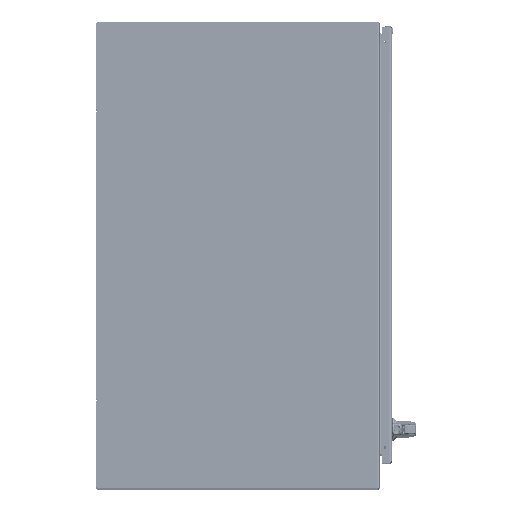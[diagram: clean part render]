
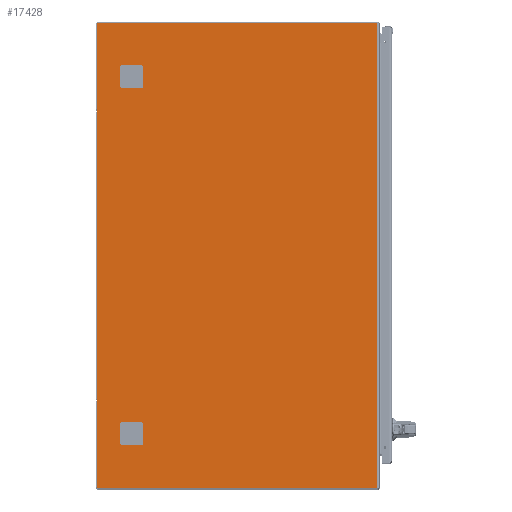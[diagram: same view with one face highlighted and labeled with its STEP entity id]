
A CAD part, top view. The second image highlights one B-rep face of the part: STEP entity #17428.
In plain terms, the highlighted planar face has unit normal (0, 0, 1) as drawn and (0, 1, 0) by its records, which use the part's own axes.
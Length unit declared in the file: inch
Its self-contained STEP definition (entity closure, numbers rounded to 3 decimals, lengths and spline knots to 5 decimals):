
#16191=CARTESIAN_POINT('',(-23.888,0.,-19.638));
#16192=DIRECTION('',(0.,1.,0.));
#16193=DIRECTION('',(0.,0.,-1.));
#16194=AXIS2_PLACEMENT_3D('',#16191,#16192,#16193);
#16199=CARTESIAN_POINT('',(-23.888,0.,19.638));
#16200=DIRECTION('',(0.,1.,0.));
#16201=DIRECTION('',(-1.,0.,0.));
#16202=AXIS2_PLACEMENT_3D('',#16199,#16200,#16201);
#16207=DIRECTION('',(0.,0.,1.));
#16208=VECTOR('',#16207,1.5);
#16209=CARTESIAN_POINT('',(-20.,0.,-15.875));
#16210=LINE('',#16209,#16208);
#16214=CARTESIAN_POINT('',(-20.25,0.,-15.875));
#16215=DIRECTION('',(0.,1.,0.));
#16216=DIRECTION('',(1.,0.,0.));
#16217=AXIS2_PLACEMENT_3D('',#16214,#16215,#16216);
#16222=DIRECTION('',(1.,0.,0.));
#16223=VECTOR('',#16222,1.5);
#16224=CARTESIAN_POINT('',(-21.75,0.,-16.125));
#16225=LINE('',#16224,#16223);
#16229=CARTESIAN_POINT('',(-21.75,0.,-15.875));
#16230=DIRECTION('',(0.,1.,0.));
#16231=DIRECTION('',(0.,0.,-1.));
#16232=AXIS2_PLACEMENT_3D('',#16229,#16230,#16231);
#16237=DIRECTION('',(0.,0.,-1.));
#16238=VECTOR('',#16237,1.5);
#16239=CARTESIAN_POINT('',(-22.,0.,-14.375));
#16240=LINE('',#16239,#16238);
#16244=CARTESIAN_POINT('',(-21.75,0.,-14.375));
#16245=DIRECTION('',(0.,1.,0.));
#16246=DIRECTION('',(-1.,0.,0.));
#16247=AXIS2_PLACEMENT_3D('',#16244,#16245,#16246);
#16252=DIRECTION('',(-1.,0.,0.));
#16253=VECTOR('',#16252,1.5);
#16254=CARTESIAN_POINT('',(-20.25,0.,-14.125));
#16255=LINE('',#16254,#16253);
#16259=CARTESIAN_POINT('',(-20.25,0.,-14.375));
#16260=DIRECTION('',(0.,1.,0.));
#16261=DIRECTION('',(0.,0.,1.));
#16262=AXIS2_PLACEMENT_3D('',#16259,#16260,#16261);
#16267=DIRECTION('',(0.,0.,1.));
#16268=VECTOR('',#16267,1.5);
#16269=CARTESIAN_POINT('',(-20.,0.,14.375));
#16270=LINE('',#16269,#16268);
#16274=CARTESIAN_POINT('',(-20.25,0.,14.375));
#16275=DIRECTION('',(0.,1.,0.));
#16276=DIRECTION('',(1.,0.,0.));
#16277=AXIS2_PLACEMENT_3D('',#16274,#16275,#16276);
#16282=DIRECTION('',(1.,0.,0.));
#16283=VECTOR('',#16282,1.5);
#16284=CARTESIAN_POINT('',(-21.75,0.,14.125));
#16285=LINE('',#16284,#16283);
#16289=CARTESIAN_POINT('',(-21.75,0.,14.375));
#16290=DIRECTION('',(0.,1.,0.));
#16291=DIRECTION('',(0.,0.,-1.));
#16292=AXIS2_PLACEMENT_3D('',#16289,#16290,#16291);
#16297=DIRECTION('',(0.,0.,-1.));
#16298=VECTOR('',#16297,1.5);
#16299=CARTESIAN_POINT('',(-22.,0.,15.875));
#16300=LINE('',#16299,#16298);
#16304=CARTESIAN_POINT('',(-21.75,0.,15.875));
#16305=DIRECTION('',(0.,1.,0.));
#16306=DIRECTION('',(-1.,0.,0.));
#16307=AXIS2_PLACEMENT_3D('',#16304,#16305,#16306);
#16312=DIRECTION('',(-1.,0.,0.));
#16313=VECTOR('',#16312,1.5);
#16314=CARTESIAN_POINT('',(-20.25,0.,16.125));
#16315=LINE('',#16314,#16313);
#16319=CARTESIAN_POINT('',(-20.25,0.,15.875));
#16320=DIRECTION('',(0.,1.,0.));
#16321=DIRECTION('',(0.,0.,1.));
#16322=AXIS2_PLACEMENT_3D('',#16319,#16320,#16321);
#16334=DIRECTION('',(0.,0.,-1.));
#16335=VECTOR('',#16334,39.276);
#16336=CARTESIAN_POINT('',(-23.948,0.,19.638));
#16337=LINE('',#16336,#16335);
#16362=DIRECTION('',(-1.,0.,0.));
#16363=VECTOR('',#16362,23.699);
#16364=CARTESIAN_POINT('',(-0.189,0.,19.698));
#16365=LINE('',#16364,#16363);
#16405=DIRECTION('',(0.,0.,1.));
#16406=VECTOR('',#16405,39.396);
#16407=CARTESIAN_POINT('',(-0.189,0.,-19.698));
#16408=LINE('',#16407,#16406);
#16513=DIRECTION('',(-1.,0.,0.));
#16514=VECTOR('',#16513,23.699);
#16515=CARTESIAN_POINT('',(-0.189,0.,-19.698));
#16516=LINE('',#16515,#16514);
#17213=CARTESIAN_POINT('',(-0.189,0.,19.698));
#17214=VERTEX_POINT('',#17213);
#17215=CARTESIAN_POINT('',(-0.189,0.,-19.698));
#17216=VERTEX_POINT('',#17215);
#17241=CARTESIAN_POINT('',(-23.888,0.,-19.698));
#17242=CARTESIAN_POINT('',(-23.948,0.,-19.638));
#17243=VERTEX_POINT('',#17241);
#17244=VERTEX_POINT('',#17242);
#17249=CARTESIAN_POINT('',(-23.948,0.,19.638));
#17250=CARTESIAN_POINT('',(-23.888,0.,19.698));
#17251=VERTEX_POINT('',#17249);
#17252=VERTEX_POINT('',#17250);
#17257=CARTESIAN_POINT('',(-20.,0.,-15.875));
#17258=CARTESIAN_POINT('',(-20.,0.,-14.375));
#17259=VERTEX_POINT('',#17257);
#17260=VERTEX_POINT('',#17258);
#17261=CARTESIAN_POINT('',(-20.25,0.,-14.125));
#17262=VERTEX_POINT('',#17261);
#17263=CARTESIAN_POINT('',(-21.75,0.,-14.125));
#17264=VERTEX_POINT('',#17263);
#17265=CARTESIAN_POINT('',(-22.,0.,-14.375));
#17266=VERTEX_POINT('',#17265);
#17267=CARTESIAN_POINT('',(-22.,0.,-15.875));
#17268=VERTEX_POINT('',#17267);
#17269=CARTESIAN_POINT('',(-21.75,0.,-16.125));
#17270=VERTEX_POINT('',#17269);
#17271=CARTESIAN_POINT('',(-20.25,0.,-16.125));
#17272=VERTEX_POINT('',#17271);
#17273=CARTESIAN_POINT('',(-20.,0.,14.375));
#17274=CARTESIAN_POINT('',(-20.,0.,15.875));
#17275=VERTEX_POINT('',#17273);
#17276=VERTEX_POINT('',#17274);
#17277=CARTESIAN_POINT('',(-20.25,0.,16.125));
#17278=VERTEX_POINT('',#17277);
#17279=CARTESIAN_POINT('',(-21.75,0.,16.125));
#17280=VERTEX_POINT('',#17279);
#17281=CARTESIAN_POINT('',(-22.,0.,15.875));
#17282=VERTEX_POINT('',#17281);
#17283=CARTESIAN_POINT('',(-22.,0.,14.375));
#17284=VERTEX_POINT('',#17283);
#17285=CARTESIAN_POINT('',(-21.75,0.,14.125));
#17286=VERTEX_POINT('',#17285);
#17287=CARTESIAN_POINT('',(-20.25,0.,14.125));
#17288=VERTEX_POINT('',#17287);
#17373=CARTESIAN_POINT('',(0.,0.,19.698));
#17374=DIRECTION('',(0.,1.,0.));
#17375=DIRECTION('',(-1.,0.,0.));
#17376=AXIS2_PLACEMENT_3D('',#17373,#17374,#17375);
#17377=PLANE('',#17376);
#17379=ORIENTED_EDGE('',*,*,#17378,.F.);
#17381=ORIENTED_EDGE('',*,*,#17380,.F.);
#17383=ORIENTED_EDGE('',*,*,#17382,.T.);
#17385=ORIENTED_EDGE('',*,*,#17384,.T.);
#17387=ORIENTED_EDGE('',*,*,#17386,.F.);
#17389=ORIENTED_EDGE('',*,*,#17388,.T.);
#17390=EDGE_LOOP('',(#17379,#17381,#17383,#17385,#17387,#17389));
#17391=FACE_OUTER_BOUND('',#17390,.F.);
#17393=ORIENTED_EDGE('',*,*,#17392,.F.);
#17395=ORIENTED_EDGE('',*,*,#17394,.T.);
#17397=ORIENTED_EDGE('',*,*,#17396,.F.);
#17399=ORIENTED_EDGE('',*,*,#17398,.T.);
#17401=ORIENTED_EDGE('',*,*,#17400,.F.);
#17403=ORIENTED_EDGE('',*,*,#17402,.T.);
#17405=ORIENTED_EDGE('',*,*,#17404,.F.);
#17407=ORIENTED_EDGE('',*,*,#17406,.T.);
#17408=EDGE_LOOP('',(#17393,#17395,#17397,#17399,#17401,#17403,#17405,#17407));
#17409=FACE_BOUND('',#17408,.F.);
#17411=ORIENTED_EDGE('',*,*,#17410,.F.);
#17413=ORIENTED_EDGE('',*,*,#17412,.T.);
#17415=ORIENTED_EDGE('',*,*,#17414,.F.);
#17417=ORIENTED_EDGE('',*,*,#17416,.T.);
#17419=ORIENTED_EDGE('',*,*,#17418,.F.);
#17421=ORIENTED_EDGE('',*,*,#17420,.T.);
#17423=ORIENTED_EDGE('',*,*,#17422,.F.);
#17425=ORIENTED_EDGE('',*,*,#17424,.T.);
#17426=EDGE_LOOP('',(#17411,#17413,#17415,#17417,#17419,#17421,#17423,#17425));
#17427=FACE_BOUND('',#17426,.F.);
#16195=CIRCLE('',#16194,0.06);
#16203=CIRCLE('',#16202,0.06);
#16218=CIRCLE('',#16217,0.25);
#16233=CIRCLE('',#16232,0.25);
#16248=CIRCLE('',#16247,0.25);
#16263=CIRCLE('',#16262,0.25);
#16278=CIRCLE('',#16277,0.25);
#16293=CIRCLE('',#16292,0.25);
#16308=CIRCLE('',#16307,0.25);
#16323=CIRCLE('',#16322,0.25);
#17378=EDGE_CURVE('',#17243,#17244,#16195,.T.);
#17380=EDGE_CURVE('',#17216,#17243,#16516,.T.);
#17382=EDGE_CURVE('',#17216,#17214,#16408,.T.);
#17384=EDGE_CURVE('',#17214,#17252,#16365,.T.);
#17386=EDGE_CURVE('',#17251,#17252,#16203,.T.);
#17388=EDGE_CURVE('',#17251,#17244,#16337,.T.);
#17392=EDGE_CURVE('',#17259,#17260,#16210,.T.);
#17394=EDGE_CURVE('',#17259,#17272,#16218,.T.);
#17396=EDGE_CURVE('',#17270,#17272,#16225,.T.);
#17398=EDGE_CURVE('',#17270,#17268,#16233,.T.);
#17400=EDGE_CURVE('',#17266,#17268,#16240,.T.);
#17402=EDGE_CURVE('',#17266,#17264,#16248,.T.);
#17404=EDGE_CURVE('',#17262,#17264,#16255,.T.);
#17406=EDGE_CURVE('',#17262,#17260,#16263,.T.);
#17410=EDGE_CURVE('',#17275,#17276,#16270,.T.);
#17412=EDGE_CURVE('',#17275,#17288,#16278,.T.);
#17414=EDGE_CURVE('',#17286,#17288,#16285,.T.);
#17416=EDGE_CURVE('',#17286,#17284,#16293,.T.);
#17418=EDGE_CURVE('',#17282,#17284,#16300,.T.);
#17420=EDGE_CURVE('',#17282,#17280,#16308,.T.);
#17422=EDGE_CURVE('',#17278,#17280,#16315,.T.);
#17424=EDGE_CURVE('',#17278,#17276,#16323,.T.);
#17428=ADVANCED_FACE('',(#17391,#17409,#17427),#17377,.T.);
